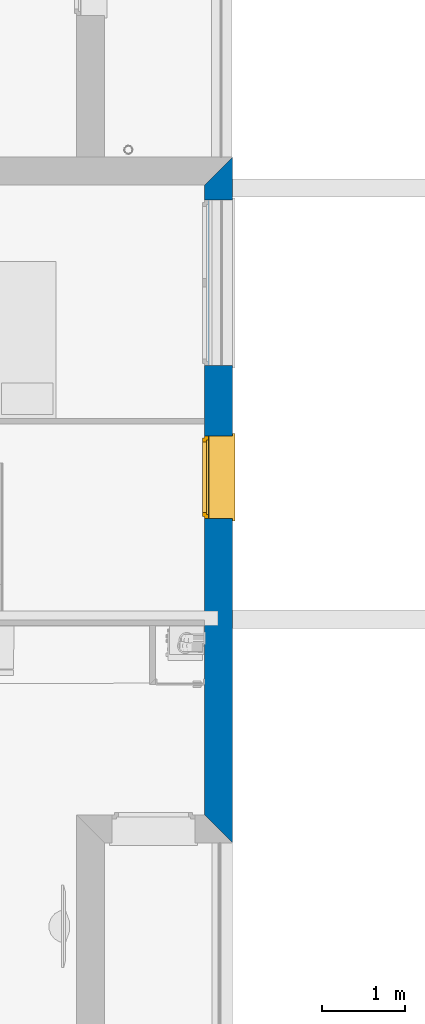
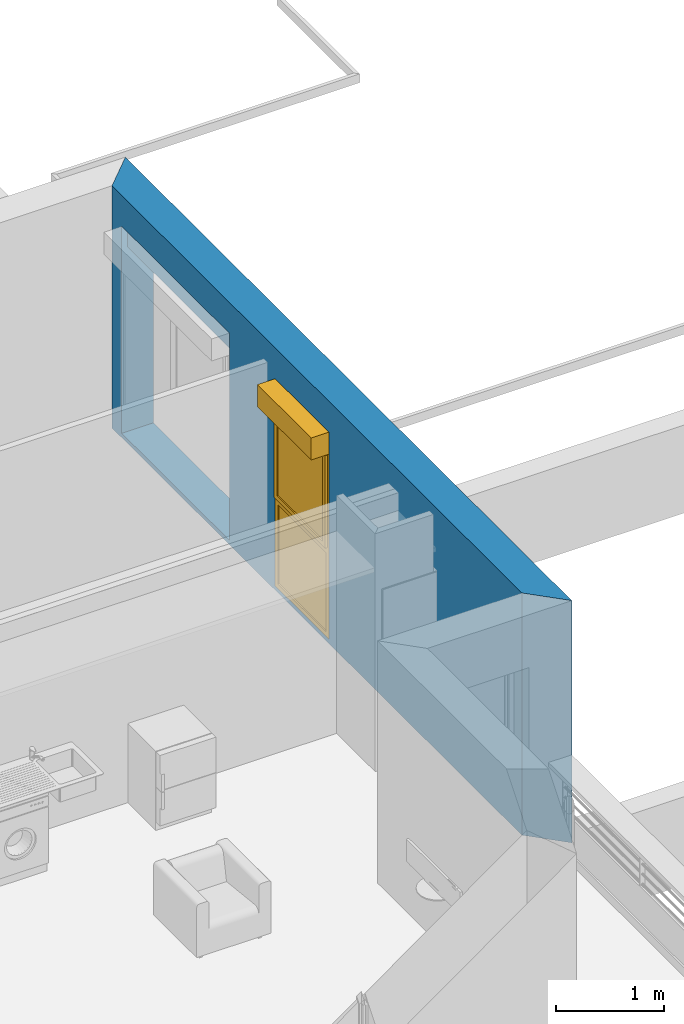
# One storey, part 40 of 171: 1 wall, 1 window, 2 openings.
"""IFC2X3 building model written with IfcOpenShell, lengths in millimetres."""

from ifc_helpers import new_model, entity, si_unit, converted_unit, derived_unit, money_unit, direction, frame, origin_with_axes, place, context, subcontext, project, spatial, polyline, outline, extrude, open_shell, faceted_brep, surface_model, source, transform, mapped, material, layer, layer_set, layer_usage, type_object, element, fill, save


model = new_model("IFC2X3")

# Units and contexts
model_context = context("Model", 3, precision=0.01, world=origin_with_axes(), true_north=direction((0.0, 1.0)))
body_context = subcontext(model_context, "Body", "Model", "MODEL_VIEW")
ifc_project = project(units=[si_unit("LENGTHUNIT", "METRE", prefix="MILLI"), si_unit("AREAUNIT", "SQUARE_METRE"), si_unit("VOLUMEUNIT", "CUBIC_METRE"), converted_unit("PLANEANGLEUNIT", "DEGREE", entity("IfcPlaneAngleMeasure", 0.0174532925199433), si_unit("PLANEANGLEUNIT", "RADIAN"), dimensions=[0, 0, 0, 0, 0, 0, 0]), money_unit("USD"), converted_unit("TIMEUNIT", "Year", entity("IfcTimeMeasure", 31557600.0), si_unit("TIMEUNIT", "SECOND"), dimensions=[0, 0, 1, 0, 0, 0, 0]), si_unit("MASSUNIT", "GRAM", prefix="KILO"), si_unit("THERMODYNAMICTEMPERATUREUNIT", "DEGREE_CELSIUS"), si_unit("LUMINOUSINTENSITYUNIT", "LUMEN"), si_unit("ENERGYUNIT", "JOULE", prefix="MEGA"), derived_unit("THERMALCONDUCTANCEUNIT", [(si_unit("POWERUNIT", "WATT"), 1), (si_unit("LENGTHUNIT", "METRE"), -1), (si_unit("THERMODYNAMICTEMPERATUREUNIT", "KELVIN"), -1)]), derived_unit("SPECIFICHEATCAPACITYUNIT", [(si_unit("ENERGYUNIT", "JOULE"), 1), (si_unit("MASSUNIT", "GRAM", prefix="KILO"), -1), (si_unit("THERMODYNAMICTEMPERATUREUNIT", "KELVIN"), -1)]), derived_unit("MASSDENSITYUNIT", [(si_unit("MASSUNIT", "GRAM", prefix="KILO"), 1), (si_unit("VOLUMEUNIT", "CUBIC_METRE"), -1)])], contexts=[model_context])

# Site, building, storey
site_placement = place(None, origin_with_axes())
site = spatial("IfcSite", under=ifc_project, at=site_placement, Name="Site", CompositionType="ELEMENT")
building_placement = place(site_placement, origin_with_axes())
building = spatial("IfcBuilding", under=site, at=building_placement, Name="Bâtiment", CompositionType="ELEMENT")
storey_placement = place(building_placement, frame((0.0, 0.0, 3000.0), z_axis=(0.0, 0.0, 1.0), x_axis=(1.0, 0.0, 0.0)))
storey = spatial("IfcBuildingStorey", under=building, at=storey_placement, Name="rdc", CompositionType="ELEMENT", Elevation=3000.0)

# Wall, openings, window
ifc_material_1 = material(Name="Parpaing 312445824")
ifc_layer_1 = layer(ifc_material_1, 180.0, ventilated="UNKNOWN")
ifc_material_2 = material(Name="Isolant styromousse 301821074")
ifc_layer_2 = layer(ifc_material_2, 160.0, ventilated="UNKNOWN")
ifc_layer_set = layer_set([ifc_layer_1, ifc_layer_2], Name="isol int 18+16 0018356637")
ifc_layer_usage = layer_usage(ifc_layer_set, "AXIS2", "POSITIVE", 0.0)
wall_type = type_object("IfcWallType", Name="isol int 18+16 0018356637 340", PredefinedType="NOTDEFINED")
wall_placement = place(storey_placement, frame((2234356.673459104, -655041.4677782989, 0.0), z_axis=(0.0, 0.0, 1.0), x_axis=(-5.666330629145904e-06, 0.9999999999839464, 0.0)))
wall = element("IfcWallStandardCase", 1, at=wall_placement, inside=storey, type_object=wall_type, material=ifc_layer_usage, Name="Mur-144", context=body_context, shape_type="SweptSolid", body=[
    extrude(outline(polyline([(0.0, 0.0), (8303.026472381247, 0.0), (7963.028399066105, 340.0000000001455), (340.0019265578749, 340.0000000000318), (0.0, 0.0)])), origin_with_axes(), (0.0, 0.0, 1.0), 2750.0),
])
opening_1_placement = place(wall_placement, frame((6781.330882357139, 1.13686837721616e-10, 49.99999999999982), z_axis=(0.0, 0.0, 1.0), x_axis=(1.0, 0.0, 0.0)))
element("IfcOpeningElement", 2, at=opening_1_placement, cuts=wall, Name="Fen-207", context=body_context, shape_type="Brep", body=[
    faceted_brep([(1000.0, 280.0000000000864, 2100.0), (-999.9999999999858, 280.0000000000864, 2100.0), (-999.9999999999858, -1.047047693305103, 2100.0), (999.9999999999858, -1.047047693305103, 2100.0), (1000.0, 280.0000000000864, 2350.0), (-999.9999999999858, 280.0000000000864, 2350.0), (-1000.0, 290.0000000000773, 2100.0), (-999.9999999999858, 290.0000000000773, 0.0), (-999.9999999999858, -1.047047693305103, 0.0), (999.9999999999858, -1.047047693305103, 0.0), (1000.0, 289.9999999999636, 2100.0), (1000.0, 289.9999999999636, 0.0), (1000.0, 341.0470476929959, 2100.0), (1000.0, 529.9999999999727, 2100.0), (1000.0, 529.9999999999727, 2350.0), (-1000.0, 529.9999999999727, 2350.0), (-1000.0, 529.9999999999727, 2100.0), (-999.9999999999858, 341.0470476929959, 2100.0), (-999.9999999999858, 341.0470476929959, 0.0), (999.9999999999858, 341.0470476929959, 0.0)], [[[0, 1, 2, 3]], [[1, 0, 4, 5]], [[1, 6, 7, 8, 2]], [[2, 8, 9, 3]], [[10, 0, 3, 9, 11]], [[0, 10, 12, 13, 14, 4]], [[4, 14, 15, 5]], [[6, 1, 5, 15, 16, 17]], [[6, 17, 18, 7]], [[11, 9, 8, 7, 18, 19]], [[12, 10, 11, 19]], [[12, 17, 16, 13]], [[14, 13, 16, 15]], [[17, 12, 19, 18]]]),
])
opening_2_placement = place(wall_placement, frame((4427.837846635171, 1.13686837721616e-10, 49.99999999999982), z_axis=(0.0, 0.0, 1.0), x_axis=(1.0, 0.0, 0.0)))
opening_2 = element("IfcOpeningElement", 3, at=opening_2_placement, cuts=wall, Name="Fen-133", context=body_context, shape_type="Brep", body=[
    faceted_brep([(499.9999999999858, 290.0000000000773, 2100.0), (499.9999999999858, 279.9999999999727, 2100.0), (499.9999999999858, -1.047047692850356, 2100.0), (499.9999999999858, -1.047047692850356, 0.0), (500.0, 290.0000000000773, 0.0), (499.9999999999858, 341.0470476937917, 2100.0), (499.9999999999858, 529.9999999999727, 2100.0), (499.9999999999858, 529.9999999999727, 2350.0), (499.9999999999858, 279.9999999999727, 2350.0), (-500.0, 279.9999999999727, 2100.0), (-500.0, -1.047047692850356, 2100.0), (-500.0, -1.047047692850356, 0.0), (-499.9999999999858, 289.9999999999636, 0.0), (-500.0, 341.0470476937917, 0.0), (499.9999999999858, 341.0470476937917, 0.0), (-500.0, 341.0470476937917, 2100.0), (-500.0000000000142, 529.9999999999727, 2100.0), (-500.0000000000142, 529.9999999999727, 2350.0), (-500.0, 279.9999999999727, 2350.0), (-500.0, 289.9999999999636, 2100.0)], [[[0, 1, 2, 3, 4]], [[1, 0, 5, 6, 7, 8]], [[1, 9, 10, 2]], [[10, 11, 3, 2]], [[4, 3, 11, 12, 13, 14]], [[5, 0, 4, 14]], [[5, 15, 16, 6]], [[7, 6, 16, 17]], [[8, 7, 17, 18]], [[9, 1, 8, 18]], [[9, 19, 12, 11, 10]], [[19, 15, 13, 12]], [[15, 5, 14, 13]], [[19, 9, 18, 17, 16, 15]]]),
])
window_style = type_object("IfcWindowStyle", Name="Fenêtre 27", ConstructionType="NOTDEFINED", OperationType="DOUBLE_PANEL_HORIZONTAL", ParameterTakesPrecedence=False, Sizeable=False)
shared_shape = source(origin_with_axes(), body_context, "Body", "SurfaceModel", [
    surface_model("IfcShellBasedSurfaceModel", [(500.0, -51.00000000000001, 40.00000000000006), (500.0, -51.00000000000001, 50.00000000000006), (-500.0, -51.00000000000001, 50.0), (-500.0, -51.00000000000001, 40.0), (530.0, -369.9999999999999, 28.96551724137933), (530.0, -339.9999999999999, 30.00324289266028), (500.0, -339.9999999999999, 30.00324289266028), (-500.0, -339.9999999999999, 30.00324289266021), (-530.0, -339.9999999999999, 30.00324289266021), (-530.0, -369.9999999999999, 28.96551724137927), (530.0, -369.9999999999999, 8.96551724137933), (-530.0, -369.9999999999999, 8.965517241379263), (530.0, -359.9999999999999, 18.96551724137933), (-530.0, -359.9999999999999, 18.96551724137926)], [open_shell([[[0, 1, 2, 3]], [[4, 5, 6, 0, 3, 7, 8, 9]], [[10, 4, 9, 11]], [[12, 10, 11, 13]]])]),
    faceted_brep([(-500.0, -59.99999999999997, 2350.0), (-497.0, -59.99999999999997, 2350.0), (-497.0, 190.0, 2350.0), (-500.0, 190.0, 2350.0), (-500.0, -59.99999999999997, 2100.0), (-497.0, -59.99999999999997, 2100.0), (-497.0, 190.0, 2100.0), (-500.0, 190.0, 2100.0)], [[[0, 1, 2, 3]], [[4, 5, 1, 0]], [[1, 5, 6, 2]], [[3, 2, 6, 7]], [[0, 3, 7, 4]], [[7, 6, 5, 4]]]),
    faceted_brep([(497.0, -59.99999999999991, 2350.0), (500.0, -59.99999999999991, 2350.0), (500.0, 190.0000000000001, 2350.0), (497.0, 190.0000000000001, 2350.0), (497.0, -59.99999999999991, 2100.0), (500.0, -59.99999999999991, 2100.0), (500.0, 190.0000000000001, 2100.0), (497.0, 190.0000000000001, 2100.0)], [[[0, 1, 2, 3]], [[4, 5, 1, 0]], [[1, 5, 6, 2]], [[3, 2, 6, 7]], [[0, 3, 7, 4]], [[7, 6, 5, 4]]]),
    faceted_brep([(-497.0, -60.0, 2100.0), (497.0, -59.99999999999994, 2100.0), (497.0, -59.99999999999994, 2350.0), (-497.0, -60.0, 2350.0), (-497.0, -56.99999999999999, 2100.0), (497.0, -56.99999999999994, 2100.0), (497.0, -56.99999999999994, 2347.0), (497.0, 187.0000000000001, 2347.0), (497.0, 187.0000000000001, 2103.0), (497.0, -37.99999999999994, 2103.0), (497.0, -37.99999999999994, 2100.0), (497.0, 190.0000000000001, 2100.0), (497.0, 190.0000000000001, 2350.0), (-497.0, 190.0, 2350.0), (-497.0, 190.0, 2100.0), (-497.0, -37.99999999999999, 2100.0), (-497.0, -37.99999999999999, 2103.0), (-497.0, 187.0, 2103.0), (-497.0, 187.0, 2347.0), (-497.0, -56.99999999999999, 2347.0)], [[[0, 1, 2, 3]], [[4, 5, 1, 0]], [[1, 5, 6, 7, 8, 9, 10, 11, 12, 2]], [[3, 2, 12, 13]], [[0, 3, 13, 14, 15, 16, 17, 18, 19, 4]], [[19, 6, 5, 4]], [[18, 7, 6, 19]], [[17, 8, 7, 18]], [[16, 9, 8, 17]], [[15, 10, 9, 16]], [[14, 11, 10, 15]], [[13, 12, 11, 14]]]),
    faceted_brep([(-494.0, -40.37442957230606, 2206.419644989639), (-494.0, -41.99999999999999, 2225.0), (-494.0, -40.37442957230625, 2243.580355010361), (-494.0, -35.54711042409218, 2261.596155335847), (-494.0, -27.66471820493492, 2278.5), (-494.0, -16.96675541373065, 2293.77827423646), (-494.0, -3.778274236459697, 2306.966755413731), (-494.0, 11.5, 2317.664718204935), (-494.0, 28.40384466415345, 2325.547110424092), (-494.0, 46.41964498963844, 2330.374429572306), (-494.0, 64.99999999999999, 2332.0), (-494.0, 83.58035501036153, 2330.374429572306), (-494.0, 101.5961553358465, 2325.547110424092), (-494.0, 118.5, 2317.664718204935), (-494.0, 133.7782742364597, 2306.966755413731), (-494.0, 146.9667554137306, 2293.77827423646), (-494.0, 157.6647182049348, 2278.5), (-494.0, 165.5471104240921, 2261.596155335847), (-494.0, 170.3744295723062, 2243.580355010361), (-494.0, 171.9999999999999, 2225.0), (-494.0, 170.3744295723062, 2206.419644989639), (-494.0, 165.5471104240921, 2188.403844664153), (-494.0, 157.6647182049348, 2171.5), (-494.0, 146.9667554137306, 2156.22172576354), (-494.0, 133.7782742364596, 2143.03324458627), (-494.0, 118.4999999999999, 2132.335281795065), (-494.0, 101.5961553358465, 2124.452889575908), (-494.0, 83.58035501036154, 2119.625570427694), (-494.0, 65.00000000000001, 2118.0), (-494.0, 46.4196449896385, 2119.625570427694), (-494.0, 28.40384466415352, 2124.452889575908), (-494.0, 11.50000000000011, 2132.335281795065), (-494.0, -3.778274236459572, 2143.03324458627), (-494.0, -16.9667554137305, 2156.22172576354), (-494.0, -27.66471820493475, 2171.5), (-494.0, -35.54711042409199, 2188.403844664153), (494.0, -40.374429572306, 2206.419644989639), (494.0, -41.99999999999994, 2225.0), (494.0, -40.37442957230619, 2243.580355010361), (494.0, -35.54711042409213, 2261.596155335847), (494.0, -27.66471820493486, 2278.5), (494.0, -16.96675541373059, 2293.77827423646), (494.0, -3.778274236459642, 2306.966755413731), (494.0, 11.50000000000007, 2317.664718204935), (494.0, 28.40384466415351, 2325.547110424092), (494.0, 46.41964498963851, 2330.374429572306), (494.0, 65.00000000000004, 2332.0), (494.0, 83.58035501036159, 2330.374429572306), (494.0, 101.5961553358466, 2325.547110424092), (494.0, 118.5, 2317.664718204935), (494.0, 133.7782742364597, 2306.966755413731), (494.0, 146.9667554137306, 2293.77827423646), (494.0, 157.6647182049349, 2278.5), (494.0, 165.5471104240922, 2261.596155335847), (494.0, 170.3744295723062, 2243.580355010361), (494.0, 172.0, 2225.0), (494.0, 170.3744295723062, 2206.419644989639), (494.0, 165.5471104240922, 2188.403844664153), (494.0, 157.6647182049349, 2171.5), (494.0, 146.9667554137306, 2156.22172576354), (494.0, 133.7782742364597, 2143.03324458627), (494.0, 118.5, 2132.335281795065), (494.0, 101.5961553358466, 2124.452889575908), (494.0, 83.5803550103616, 2119.625570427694), (494.0, 65.00000000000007, 2118.0), (494.0, 46.41964498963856, 2119.625570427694), (494.0, 28.40384466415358, 2124.452889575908), (494.0, 11.50000000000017, 2132.335281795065), (494.0, -3.778274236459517, 2143.03324458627), (494.0, -16.96675541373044, 2156.22172576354), (494.0, -27.6647182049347, 2171.5), (494.0, -35.54711042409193, 2188.403844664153)], [[[0, 1, 2, 3, 4, 5, 6, 7, 8, 9, 10, 11, 12, 13, 14, 15, 16, 17, 18, 19, 20, 21, 22, 23, 24, 25, 26, 27, 28, 29, 30, 31, 32, 33, 34, 35]], [[0, 36, 37, 1]], [[1, 37, 38, 2]], [[2, 38, 39, 3]], [[3, 39, 40, 4]], [[4, 40, 41, 5]], [[5, 41, 42, 6]], [[6, 42, 43, 7]], [[7, 43, 44, 8]], [[8, 44, 45, 9]], [[9, 45, 46, 10]], [[10, 46, 47, 11]], [[11, 47, 48, 12]], [[12, 48, 49, 13]], [[13, 49, 50, 14]], [[14, 50, 51, 15]], [[15, 51, 52, 16]], [[16, 52, 53, 17]], [[17, 53, 54, 18]], [[18, 54, 55, 19]], [[19, 55, 56, 20]], [[20, 56, 57, 21]], [[21, 57, 58, 22]], [[22, 58, 59, 23]], [[23, 59, 60, 24]], [[24, 60, 61, 25]], [[25, 61, 62, 26]], [[26, 62, 63, 27]], [[27, 63, 64, 28]], [[28, 64, 65, 29]], [[29, 65, 66, 30]], [[30, 66, 67, 31]], [[31, 67, 68, 32]], [[32, 68, 69, 33]], [[33, 69, 70, 34]], [[34, 70, 71, 35]], [[35, 71, 36, 0]], [[36, 71, 70, 69, 68, 67, 66, 65, 64, 63, 62, 61, 60, 59, 58, 57, 56, 55, 54, 53, 52, 51, 50, 49, 48, 47, 46, 45, 44, 43, 42, 41, 40, 39, 38, 37]]]),
    faceted_brep([(500.0, -34.99999999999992, 30.0), (500.0, -34.99999999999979, 2100.0), (500.0, -59.99999999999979, 2100.0), (500.0, -59.99999999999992, 30.0), (475.0, -34.99999999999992, 30.0), (475.0, -34.99999999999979, 2100.0), (475.0, -37.99999999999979, 2100.0), (497.0, -37.99999999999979, 2100.0), (497.0, -56.99999999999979, 2100.0), (475.0, -56.99999999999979, 2100.0), (475.0, -59.99999999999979, 2100.0), (475.0, -59.99999999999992, 30.0), (475.0, -56.99999999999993, 30.0), (497.0, -56.99999999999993, 30.0), (497.0, -37.99999999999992, 30.0), (475.0, -37.99999999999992, 30.0)], [[[0, 1, 2, 3]], [[4, 5, 1, 0]], [[1, 5, 6, 7, 8, 9, 10, 2]], [[3, 2, 10, 11]], [[0, 3, 11, 12, 13, 14, 15, 4]], [[15, 6, 5, 4]], [[14, 7, 6, 15]], [[13, 8, 7, 14]], [[12, 9, 8, 13]], [[11, 10, 9, 12]]]),
    faceted_brep([(-500.0, -34.99999999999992, 30.0), (-500.0, -59.99999999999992, 30.0), (-500.0, -59.99999999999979, 2100.0), (-500.0, -34.99999999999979, 2100.0), (-475.0, -34.99999999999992, 30.0), (-475.0, -37.99999999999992, 30.0), (-497.0, -37.99999999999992, 30.0), (-497.0, -56.99999999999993, 30.0), (-475.0, -56.99999999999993, 30.0), (-475.0, -59.99999999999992, 30.0), (-475.0, -59.99999999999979, 2100.0), (-475.0, -56.99999999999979, 2100.0), (-497.0, -56.99999999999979, 2100.0), (-497.0, -37.99999999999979, 2100.0), (-475.0, -37.99999999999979, 2100.0), (-475.0, -34.99999999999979, 2100.0)], [[[0, 1, 2, 3]], [[0, 4, 5, 6, 7, 8, 9, 1]], [[1, 9, 10, 2]], [[3, 2, 10, 11, 12, 13, 14, 15]], [[4, 0, 3, 15]], [[5, 4, 15, 14]], [[6, 5, 14, 13]], [[7, 6, 13, 12]], [[8, 7, 12, 11]], [[9, 8, 11, 10]]]),
    faceted_brep([(497.0, -46.66666666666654, 2225.0), (497.0, -46.66666666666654, 2216.666666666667), (-497.0, -46.6666666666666, 2216.666666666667), (-497.0, -46.6666666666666, 2225.0), (497.0, -51.66666666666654, 2225.0), (497.0, -51.66666666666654, 2216.666666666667), (497.0, -49.99999999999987, 2200.0), (497.0, -44.99999999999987, 2200.0), (-497.0, -44.99999999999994, 2200.0), (-497.0, -49.99999999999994, 2200.0), (-497.0, -51.6666666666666, 2216.666666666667), (-497.0, -51.6666666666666, 2225.0)], [[[0, 1, 2, 3]], [[4, 5, 6, 7, 1, 0]], [[2, 1, 7, 8]], [[3, 2, 8, 9, 10, 11]], [[3, 11, 4, 0]], [[10, 5, 4, 11]], [[9, 6, 5, 10]], [[8, 7, 6, 9]]]),
    faceted_brep([(-497.0, -44.99999999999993, 2200.0), (497.0, -44.99999999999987, 2200.0), (497.0, -46.66666666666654, 2183.333333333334), (-497.0, -46.6666666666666, 2183.333333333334), (-497.0, -49.99999999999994, 2200.0), (497.0, -49.99999999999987, 2200.0), (497.0, -51.66666666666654, 2183.333333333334), (497.0, -51.66666666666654, 2166.666666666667), (497.0, -49.99999999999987, 2150.000000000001), (497.0, -44.99999999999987, 2150.000000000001), (497.0, -46.66666666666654, 2166.666666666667), (-497.0, -46.6666666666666, 2166.666666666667), (-497.0, -44.99999999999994, 2150.000000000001), (-497.0, -49.99999999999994, 2150.000000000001), (-497.0, -51.6666666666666, 2166.666666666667), (-497.0, -51.6666666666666, 2183.333333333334)], [[[0, 1, 2, 3]], [[4, 5, 1, 0]], [[1, 5, 6, 7, 8, 9, 10, 2]], [[3, 2, 10, 11]], [[0, 3, 11, 12, 13, 14, 15, 4]], [[15, 6, 5, 4]], [[14, 7, 6, 15]], [[13, 8, 7, 14]], [[12, 9, 8, 13]], [[11, 10, 9, 12]]]),
    faceted_brep([(-497.0, -44.99999999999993, 2150.000000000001), (497.0, -44.99999999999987, 2150.000000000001), (497.0, -46.66666666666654, 2133.333333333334), (-497.0, -46.6666666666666, 2133.333333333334), (-497.0, -49.99999999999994, 2150.000000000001), (497.0, -49.99999999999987, 2150.000000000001), (497.0, -51.66666666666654, 2133.333333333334), (497.0, -51.66666666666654, 2116.666666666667), (497.0, -49.99999999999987, 2100.000000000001), (497.0, -44.99999999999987, 2100.000000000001), (497.0, -46.66666666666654, 2116.666666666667), (-497.0, -46.6666666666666, 2116.666666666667), (-497.0, -44.99999999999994, 2100.000000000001), (-497.0, -49.99999999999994, 2100.000000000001), (-497.0, -51.6666666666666, 2116.666666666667), (-497.0, -51.6666666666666, 2133.333333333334)], [[[0, 1, 2, 3]], [[4, 5, 1, 0]], [[1, 5, 6, 7, 8, 9, 10, 2]], [[3, 2, 10, 11]], [[0, 3, 11, 12, 13, 14, 15, 4]], [[15, 6, 5, 4]], [[14, 7, 6, 15]], [[13, 8, 7, 14]], [[12, 9, 8, 13]], [[11, 10, 9, 12]]]),
    faceted_brep([(-475.0000000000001, 0.0, 2050.0), (-500.0, 0.0, 2050.0), (-500.0, -50.00000000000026, 2050.0), (-450.0, -50.00000000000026, 2050.0), (-450.0, -25.00000000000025, 2050.0), (-475.0000000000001, -25.00000000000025, 2050.0), (-475.0000000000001, 0.0, 1025.0), (-450.0, 0.0, 1025.0), (-450.0, 0.0, 950.0), (-450.0, 0.0, 50.00000000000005), (-500.0, 0.0, 50.00000000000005), (-500.0, -50.00000000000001, 50.00000000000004), (-450.0, -50.00000000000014, 1050.0), (-450.0, -50.00000000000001, 50.00000000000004), (-450.0, -50.00000000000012, 950.0), (-450.0, -25.00000000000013, 1050.0), (-450.0, -25.00000000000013, 1025.0), (-475.0000000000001, -25.00000000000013, 1025.0)], [[[0, 1, 2, 3, 4, 5]], [[6, 7, 8, 9, 10, 1, 0]], [[1, 10, 11, 2]], [[12, 3, 2, 11, 13, 14]], [[4, 3, 12, 15]], [[15, 16, 17, 5, 4]], [[5, 17, 6, 0]], [[6, 17, 16, 7]], [[16, 15, 12, 14, 8, 7]], [[9, 8, 14, 13]], [[10, 9, 13, 11]]]),
    faceted_brep([(450.0, -25.00000000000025, 2050.0), (450.0, -50.00000000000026, 2050.0), (500.0, -50.00000000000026, 2050.0), (500.0, 0.0, 2050.0), (475.0000000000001, 0.0, 2050.0), (475.0000000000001, -25.00000000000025, 2050.0), (450.0, -25.00000000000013, 1050.0), (450.0, -50.00000000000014, 1050.0), (500.0, -50.00000000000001, 50.00000000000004), (450.0, -50.00000000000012, 950.0), (450.0, -50.00000000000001, 50.00000000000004), (500.0, 0.0, 50.00000000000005), (475.0000000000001, 0.0, 1025.0), (450.0, 0.0, 50.00000000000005), (450.0, 0.0, 950.0), (450.0, 0.0, 1025.0), (475.0000000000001, -25.00000000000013, 1025.0), (450.0, -25.00000000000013, 1025.0)], [[[0, 1, 2, 3, 4, 5]], [[6, 7, 1, 0]], [[8, 2, 1, 7, 9, 10]], [[11, 3, 2, 8]], [[12, 4, 3, 11, 13, 14, 15]], [[12, 16, 5, 4]], [[5, 16, 17, 6, 0]], [[17, 15, 14, 9, 7, 6]], [[14, 13, 10, 9]], [[13, 11, 8, 10]], [[15, 17, 16, 12]]]),
    faceted_brep([(-450.0, -25.00000000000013, 1050.0), (-450.0, -50.00000000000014, 1050.0), (450.0, -50.00000000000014, 1050.0), (450.0, -25.00000000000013, 1050.0), (-450.0, -25.00000000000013, 1025.0), (-450.0, 0.0, 1025.0), (-450.0, 0.0, 950.0), (-450.0, -50.00000000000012, 950.0), (450.0, -50.00000000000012, 950.0), (450.0, -25.00000000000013, 1025.0), (450.0, 0.0, 950.0), (450.0, 0.0, 1025.0)], [[[0, 1, 2, 3]], [[4, 5, 6, 7, 1, 0]], [[8, 2, 1, 7]], [[9, 3, 2, 8, 10, 11]], [[9, 4, 0, 3]], [[5, 4, 9, 11]], [[11, 10, 6, 5]], [[6, 10, 8, 7]]]),
    faceted_brep([(-475.0000000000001, 0.0, 2050.0), (-500.0, 0.0, 2050.0), (-500.0, 0.0, 2100.0), (500.0, 0.0, 2100.0), (500.0, 0.0, 2050.0), (475.0000000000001, 0.0, 2050.0), (475.0000000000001, 0.0, 2075.0), (-475.0000000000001, 0.0, 2075.0), (-475.0000000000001, -25.00000000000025, 2050.0), (-450.0, -25.00000000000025, 2050.0), (-450.0, -50.00000000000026, 2050.0), (-500.0, -50.00000000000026, 2050.0), (-500.0, -50.00000000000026, 2100.0), (500.0, -50.00000000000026, 2100.0), (500.0, -50.00000000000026, 2050.0), (475.0000000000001, -25.00000000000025, 2050.0), (450.0, -50.00000000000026, 2050.0), (450.0, -25.00000000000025, 2050.0), (475.0000000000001, -25.00000000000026, 2075.0), (-475.0000000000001, -25.00000000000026, 2075.0)], [[[0, 1, 2, 3, 4, 5, 6, 7]], [[8, 9, 10, 11, 1, 0]], [[2, 1, 11, 12]], [[3, 2, 12, 13]], [[4, 3, 13, 14]], [[15, 5, 4, 14, 16, 17]], [[5, 15, 18, 6]], [[6, 18, 19, 7]], [[7, 19, 8, 0]], [[17, 9, 8, 19, 18, 15]], [[17, 16, 10, 9]], [[14, 13, 12, 11, 10, 16]]]),
    faceted_brep([(-450.0, -50.00000000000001, 50.0), (-450.0, 0.0, 50.00000000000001), (-500.0, 0.0, 50.00000000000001), (-500.0, -50.00000000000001, 50.0), (450.0, -50.00000000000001, 50.0), (450.0, 0.0, 50.00000000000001), (500.0, 0.0, 50.00000000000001), (500.0, 0.0, 0.0), (-500.0, 0.0, 0.0), (-500.0, -50.0, 0.0), (500.0, -50.0, 0.0), (500.0, -50.00000000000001, 50.0)], [[[0, 1, 2, 3]], [[4, 5, 1, 0]], [[1, 5, 6, 7, 8, 2]], [[3, 2, 8, 9]], [[0, 3, 9, 10, 11, 4]], [[11, 6, 5, 4]], [[10, 7, 6, 11]], [[9, 8, 7, 10]]]),
    faceted_brep([(-425.0000000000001, -25.00000000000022, 2025.0), (-425.0000000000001, 24.99999999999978, 2025.0), (-475.0000000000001, 24.99999999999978, 2025.0), (-475.0000000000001, -25.00000000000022, 2025.0), (-425.0000000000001, -25.00000000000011, 1075.0), (-425.0000000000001, 24.9999999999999, 1075.0), (-475.0000000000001, 24.9999999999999, 1075.0), (-475.0000000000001, -25.0000000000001, 1075.0)], [[[0, 1, 2, 3]], [[4, 5, 1, 0]], [[1, 5, 6, 2]], [[3, 2, 6, 7]], [[0, 3, 7, 4]], [[7, 6, 5, 4]]]),
    faceted_brep([(425.0000000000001, -25.00000000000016, 1075.0), (425.0000000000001, 24.99999999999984, 1075.0), (475.0000000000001, 24.99999999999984, 1075.0), (475.0000000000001, -25.00000000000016, 1075.0), (425.0000000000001, -25.00000000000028, 2025.0), (425.0000000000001, 24.99999999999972, 2025.0), (475.0000000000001, 24.99999999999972, 2025.0), (475.0000000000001, -25.00000000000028, 2025.0)], [[[0, 1, 2, 3]], [[4, 5, 1, 0]], [[1, 5, 6, 2]], [[3, 2, 6, 7]], [[0, 3, 7, 4]], [[7, 6, 5, 4]]]),
    faceted_brep([(475.0000000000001, -25.00000000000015, 1025.0), (475.0000000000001, 24.99999999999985, 1025.0), (475.0000000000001, 24.99999999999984, 1075.0), (475.0000000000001, -25.00000000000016, 1075.0), (-475.0000000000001, -25.0000000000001, 1025.0), (-475.0000000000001, 24.9999999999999, 1025.0), (-475.0000000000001, 24.9999999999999, 1075.0), (-425.0000000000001, 24.9999999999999, 1075.0), (425.0000000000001, 24.99999999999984, 1075.0), (425.0000000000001, -25.00000000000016, 1075.0), (-425.0000000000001, -25.00000000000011, 1075.0), (-475.0000000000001, -25.0000000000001, 1075.0)], [[[0, 1, 2, 3]], [[4, 5, 1, 0]], [[1, 5, 6, 7, 8, 2]], [[3, 2, 8, 9]], [[0, 3, 9, 10, 11, 4]], [[11, 6, 5, 4]], [[10, 7, 6, 11]], [[9, 8, 7, 10]]]),
    faceted_brep([(-475.0000000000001, -25.00000000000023, 2075.0), (-475.0000000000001, 24.99999999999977, 2075.0), (-475.0000000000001, 24.99999999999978, 2025.0), (-475.0000000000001, -25.00000000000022, 2025.0), (475.0000000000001, -25.00000000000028, 2075.0), (475.0000000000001, 24.99999999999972, 2075.0), (475.0000000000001, 24.99999999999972, 2025.0), (425.0000000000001, 24.99999999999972, 2025.0), (-425.0000000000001, 24.99999999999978, 2025.0), (-425.0000000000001, -25.00000000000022, 2025.0), (425.0000000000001, -25.00000000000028, 2025.0), (475.0000000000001, -25.00000000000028, 2025.0)], [[[0, 1, 2, 3]], [[4, 5, 1, 0]], [[1, 5, 6, 7, 8, 2]], [[3, 2, 8, 9]], [[0, 3, 9, 10, 11, 4]], [[11, 6, 5, 4]], [[10, 7, 6, 11]], [[9, 8, 7, 10]]]),
    surface_model("IfcShellBasedSurfaceModel", [(-425.0000000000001, -10.00000000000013, 1075.0), (425.0000000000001, -10.00000000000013, 1075.0), (425.0000000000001, -10.00000000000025, 2025.0), (-425.0000000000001, -10.00000000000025, 2025.0)], [open_shell([[[0, 1, 2, 3]]])]),
    surface_model("IfcShellBasedSurfaceModel", [(-425.0000000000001, 9.999999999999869, 1075.0), (-425.0000000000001, 9.999999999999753, 2025.0), (425.0000000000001, 9.999999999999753, 2025.0), (425.0000000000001, 9.999999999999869, 1075.0)], [open_shell([[[0, 1, 2, 3]]])]),
    surface_model("IfcShellBasedSurfaceModel", [(-450.0, -35.0, 49.99999999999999), (450.0, -35.0, 49.99999999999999), (450.0, -35.00000000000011, 950.0), (-450.0, -35.00000000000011, 950.0)], [open_shell([[[0, 1, 2, 3]]])]),
    surface_model("IfcShellBasedSurfaceModel", [(-450.0, -15.0, 49.99999999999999), (-450.0, -15.00000000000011, 950.0), (450.0, -15.00000000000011, 950.0), (450.0, -15.0, 49.99999999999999)], [open_shell([[[0, 1, 2, 3]]])]),
])
window_placement = place(opening_2_placement, frame((-500.0000000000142, -1.13686837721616e-10, 0.0), z_axis=(0.0, 0.0, 1.0), x_axis=(1.0, 0.0, 0.0)))
window = element("IfcWindow", 4, at=window_placement, inside=storey, type_object=window_style, Name="Fen-133", OverallHeight=2100.0, OverallWidth=1000.0, context=body_context, shape_type="MappedRepresentation", body=[
    mapped(shared_shape, transform((500.0, 340.0000000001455, 0.0))),
])
fill(opening_2, window)

save(model, "model.ifc")
